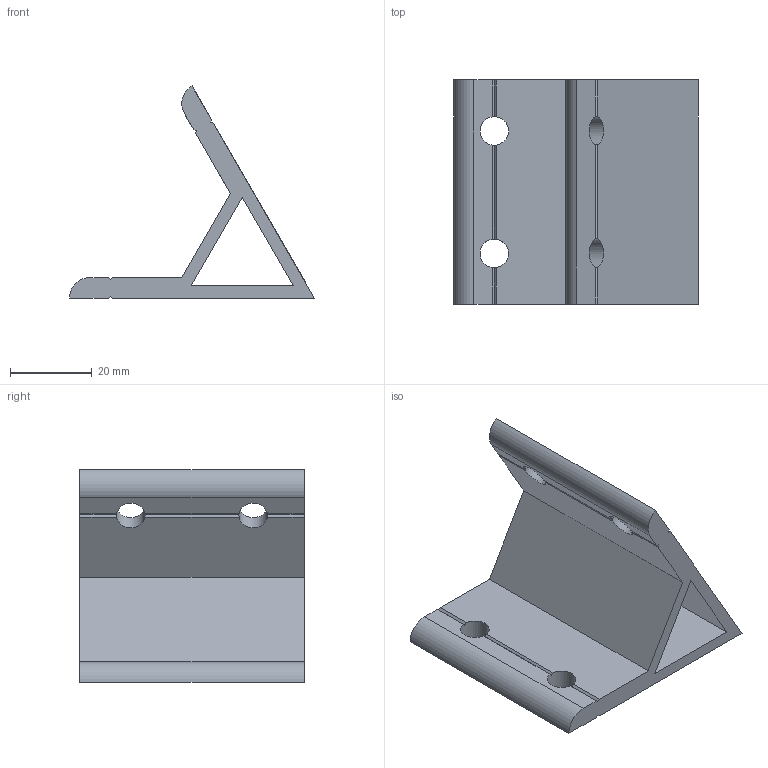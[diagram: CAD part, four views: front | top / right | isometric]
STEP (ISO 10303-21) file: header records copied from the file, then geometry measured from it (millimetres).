
FILE_DESCRIPTION(/* description */ ('Unknown'),/* implementation_level */ '2;1');
FILE_NAME(/* name */ 'AV5560',/* time_stamp */ '2026-09-17T13:46:43+08:00',/* author */ ('Unknown'),/* organization */ ('Unknown'),/* preprocessor_version */ 'ST-DEVELOPER v16.7',/* originating_system */ 'DEX',/* authorisation */ $);
FILE_SCHEMA (('AUTOMOTIVE_DESIGN {1 0 10303 214 3 1 1}'));
Length unit declared in the file: millimetre
Products named in the file (1): AV5560
Bounding box: 60 x 55 x 51.96 mm (x, y, z)
Volume: 27874.3 mm3; surface area: 16611.9 mm2
Topology: 1 solids, 1 shells, 44 faces, 142 edges, 92 vertices
Faces by surface type: plane 38, cylinder 6
Full cylindrical faces by diameter (mm): 7 x4
Entity records: 1604 total; most frequent: DIRECTION 280, ORIENTED_EDGE 276, CARTESIAN_POINT 275, EDGE_CURVE 138, AXIS2_PLACEMENT_3D 97, VERTEX_POINT 92, LINE 86, VECTOR 86
